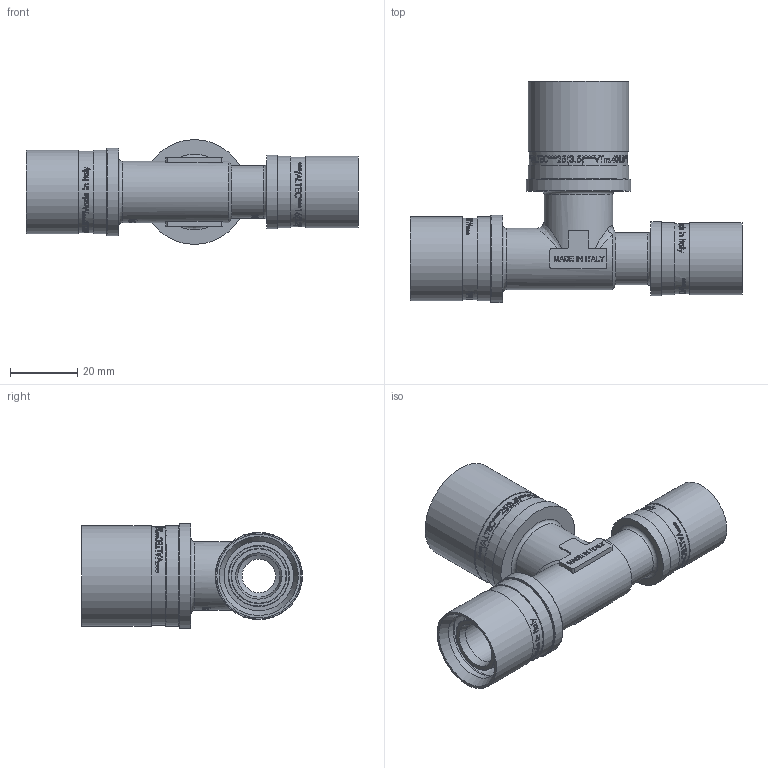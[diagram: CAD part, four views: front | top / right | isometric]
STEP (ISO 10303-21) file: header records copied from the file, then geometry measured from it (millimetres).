
FILE_DESCRIPTION(/* description */ (''),/* implementation_level */ '2;1');
FILE_NAME(/* name */ 'F:\Артём\00000\Работа удаленка\Аксеальные фитинги\VTm.431.BG.202516.stp',/* time_stamp */ '2021-01-26T12:45:43+03:00',/* author */ ('almis'),/* organization */ (''),/* preprocessor_version */ 'ST-DEVELOPER v18',/* originating_system */ 'Autodesk Inventor 2020',/* authorisation */ '');
FILE_SCHEMA (('AUTOMOTIVE_DESIGN { 1 0 10303 214 3 1 1 }'));
Length unit declared in the file: millimetre
Products named in the file (1): VTm.403.BG.001616
Bounding box: 98.86 x 65.8 x 31.2 mm (x, y, z)
Volume: 28632.2 mm3; surface area: 27209.1 mm2
Topology: 1 solids, 1 shells, 2446 faces, 6668 edges, 4479 vertices
Faces by surface type: bspline 1279, plane 851, cylinder 267, torus 25, cone 24
Full cylindrical faces by diameter (mm): 10 x1, 12.6 x1, 12.8 x5, 13.4 x4, 15 x1, 15.4 x1, 15.5 x1, 15.7 x5, 16.5 x4, 16.9 x2, 18.2 x1, 18.3 x1, 18.8 x5, 19.8 x4, 20.5 x1, 20.65 x2, 20.8 x1, 21.4 x2, 21.8 x1, 22 x1, 24.3 x1, 25 x2, 25.5 x2, 26 x1, 29.3 x1, 29.85 x2, 31.2 x1
Entity records: 101311 total; most frequent: CARTESIAN_POINT 47091, ORIENTED_EDGE 13336, DIRECTION 7467, EDGE_CURVE 6668, VERTEX_POINT 4479, LINE 3043, VECTOR 3043, EDGE_LOOP 2705
